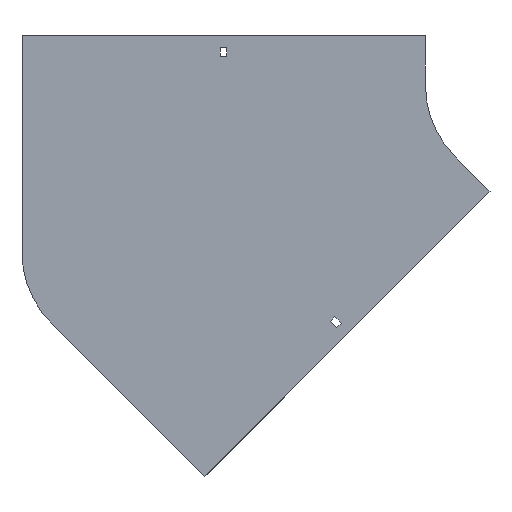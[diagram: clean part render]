
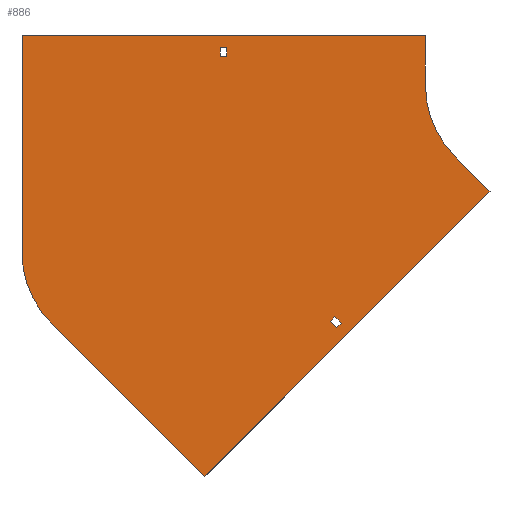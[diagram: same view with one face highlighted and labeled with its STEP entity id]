
A CAD part, front view. The second image highlights one B-rep face of the part: STEP entity #886.
In plain terms, the highlighted planar face has unit normal (0, -1, 0).
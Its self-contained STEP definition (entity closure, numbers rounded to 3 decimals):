
#19 = CARTESIAN_POINT ( 'NONE',  ( -195.338, 0., -236.35 ) ) ;
#22 = LINE ( 'NONE', #1001, #818 ) ;
#43 = ORIENTED_EDGE ( 'NONE', *, *, #96, .T. ) ;
#60 = VECTOR ( 'NONE', #853, 1000. ) ;
#61 = CARTESIAN_POINT ( 'NONE',  ( -404., 0., -167.342 ) ) ;
#66 = LINE ( 'NONE', #1029, #1354 ) ;
#67 = VERTEX_POINT ( 'NONE', #802 ) ;
#96 = EDGE_CURVE ( 'NONE', #1224, #667, #769, .T. ) ;
#101 = VERTEX_POINT ( 'NONE', #356 ) ;
#111 = VECTOR ( 'NONE', #954, 1000. ) ;
#124 = DIRECTION ( 'NONE',  ( 0., 0., -1. ) ) ;
#127 = VERTEX_POINT ( 'NONE', #222 ) ;
#135 = EDGE_LOOP ( 'NONE', ( #279, #814, #696, #543 ) ) ;
#138 = DIRECTION ( 'NONE',  ( -0.707, 0., -0.707 ) ) ;
#141 = DIRECTION ( 'NONE',  ( 0., -1., 0. ) ) ;
#163 = LINE ( 'NONE', #597, #1403 ) ;
#164 = EDGE_CURVE ( 'NONE', #1378, #511, #953, .T. ) ;
#168 = EDGE_CURVE ( 'NONE', #994, #127, #857, .T. ) ;
#173 = CARTESIAN_POINT ( 'NONE',  ( -298.75, 0., 29. ) ) ;
#181 = DIRECTION ( 'NONE',  ( 0., 0., -1. ) ) ;
#183 = CARTESIAN_POINT ( 'NONE',  ( -305.25, 0., 29. ) ) ;
#220 = VECTOR ( 'NONE', #1232, 1000. ) ;
#222 = CARTESIAN_POINT ( 'NONE',  ( -195.338, 0., -236.35 ) ) ;
#248 = CARTESIAN_POINT ( 'NONE',  ( -184.378, 0., -238.118 ) ) ;
#257 = DIRECTION ( 'NONE',  ( 0., 1., 0. ) ) ;
#259 = CARTESIAN_POINT ( 'NONE',  ( -70.711, 0., -70.711 ) ) ;
#260 = CARTESIAN_POINT ( 'NONE',  ( -305.25, 0., 29. ) ) ;
#267 = EDGE_CURVE ( 'NONE', #67, #1224, #816, .T. ) ;
#278 = CARTESIAN_POINT ( 'NONE',  ( -305.25, 0., 38. ) ) ;
#279 = ORIENTED_EDGE ( 'NONE', *, *, #1210, .F. ) ;
#281 = VECTOR ( 'NONE', #181, 1000. ) ;
#328 = ORIENTED_EDGE ( 'NONE', *, *, #267, .T. ) ;
#331 = ORIENTED_EDGE ( 'NONE', *, *, #854, .F. ) ;
#339 = FACE_BOUND ( 'NONE', #135, .T. ) ;
#344 = CIRCLE ( 'NONE', #705, 100. ) ;
#356 = CARTESIAN_POINT ( 'NONE',  ( -474.711, 0., -238.053 ) ) ;
#385 = CIRCLE ( 'NONE', #1163, 100. ) ;
#402 = DIRECTION ( 'NONE',  ( 0., 0., -1. ) ) ;
#431 = DIRECTION ( 'NONE',  ( 1., 0., 0. ) ) ;
#474 = DIRECTION ( 'NONE',  ( -0.707, 0., 0.707 ) ) ;
#475 = VERTEX_POINT ( 'NONE', #574 ) ;
#484 = LINE ( 'NONE', #491, #1309 ) ;
#487 = EDGE_CURVE ( 'NONE', #475, #101, #22, .T. ) ;
#491 = CARTESIAN_POINT ( 'NONE',  ( -190.742, 0., -231.754 ) ) ;
#504 = EDGE_CURVE ( 'NONE', #625, #992, #344, .T. ) ;
#511 = VERTEX_POINT ( 'NONE', #896 ) ;
#515 = LINE ( 'NONE', #1158, #111 ) ;
#543 = ORIENTED_EDGE ( 'NONE', *, *, #1366, .F. ) ;
#549 = EDGE_CURVE ( 'NONE', #511, #625, #163, .T. ) ;
#554 = CARTESIAN_POINT ( 'NONE',  ( -70.711, 0., -70.711 ) ) ;
#559 = CARTESIAN_POINT ( 'NONE',  ( 0., 0., 0. ) ) ;
#560 = VERTEX_POINT ( 'NONE', #278 ) ;
#574 = CARTESIAN_POINT ( 'NONE',  ( -321.026, 0., -391.737 ) ) ;
#577 = EDGE_CURVE ( 'NONE', #1301, #1378, #1255, .T. ) ;
#597 = CARTESIAN_POINT ( 'NONE',  ( -100., 0., 50. ) ) ;
#600 = VECTOR ( 'NONE', #1323, 1000. ) ;
#625 = VERTEX_POINT ( 'NONE', #908 ) ;
#642 = EDGE_CURVE ( 'NONE', #764, #475, #1033, .T. ) ;
#647 = DIRECTION ( 'NONE',  ( 0., -1., 0. ) ) ;
#667 = VERTEX_POINT ( 'NONE', #260 ) ;
#693 = CARTESIAN_POINT ( 'NONE',  ( -35.355, 0., -106.066 ) ) ;
#696 = ORIENTED_EDGE ( 'NONE', *, *, #168, .F. ) ;
#702 = AXIS2_PLACEMENT_3D ( 'NONE', #776, #647, #124 ) ;
#705 = AXIS2_PLACEMENT_3D ( 'NONE', #559, #141, #1087 ) ;
#717 = EDGE_CURVE ( 'NONE', #560, #67, #515, .T. ) ;
#737 = CARTESIAN_POINT ( 'NONE',  ( -188.974, 0., -242.714 ) ) ;
#743 = CARTESIAN_POINT ( 'NONE',  ( -298.75, 0., 29. ) ) ;
#764 = VERTEX_POINT ( 'NONE', #1151 ) ;
#769 = LINE ( 'NONE', #888, #600 ) ;
#776 = CARTESIAN_POINT ( 'NONE',  ( 0., 0., 0. ) ) ;
#798 = CARTESIAN_POINT ( 'NONE',  ( -195.338, 0., -236.35 ) ) ;
#802 = CARTESIAN_POINT ( 'NONE',  ( -298.75, 0., 38. ) ) ;
#811 = VERTEX_POINT ( 'NONE', #737 ) ;
#814 = ORIENTED_EDGE ( 'NONE', *, *, #906, .F. ) ;
#816 = LINE ( 'NONE', #173, #281 ) ;
#818 = VECTOR ( 'NONE', #474, 1000. ) ;
#841 = EDGE_LOOP ( 'NONE', ( #1348, #1228, #1189, #1399, #1293, #331, #955, #890 ) ) ;
#846 = DIRECTION ( 'NONE',  ( 0.707, 0., 0.707 ) ) ;
#853 = DIRECTION ( 'NONE',  ( 0., 0., 1. ) ) ;
#854 = EDGE_CURVE ( 'NONE', #992, #764, #966, .T. ) ;
#857 = LINE ( 'NONE', #19, #935 ) ;
#876 = FACE_OUTER_BOUND ( 'NONE', #841, .T. ) ;
#886 = ADVANCED_FACE ( 'NONE', ( #956, #876, #339 ), #1394, .T. ) ;
#888 = CARTESIAN_POINT ( 'NONE',  ( -305.25, 0., 29. ) ) ;
#890 = ORIENTED_EDGE ( 'NONE', *, *, #549, .F. ) ;
#891 = CARTESIAN_POINT ( 'NONE',  ( -190.742, 0., -231.754 ) ) ;
#896 = CARTESIAN_POINT ( 'NONE',  ( -100., 0., 50. ) ) ;
#905 = DIRECTION ( 'NONE',  ( 0., 0., 1. ) ) ;
#906 = EDGE_CURVE ( 'NONE', #127, #811, #1105, .T. ) ;
#908 = CARTESIAN_POINT ( 'NONE',  ( -100., 0., 0. ) ) ;
#912 = CARTESIAN_POINT ( 'NONE',  ( -504., 0., 50. ) ) ;
#920 = CARTESIAN_POINT ( 'NONE',  ( -504., 0., -167.342 ) ) ;
#922 = ORIENTED_EDGE ( 'NONE', *, *, #717, .T. ) ;
#935 = VECTOR ( 'NONE', #138, 1000. ) ;
#953 = LINE ( 'NONE', #1102, #1227 ) ;
#954 = DIRECTION ( 'NONE',  ( 1., 0., 0. ) ) ;
#955 = ORIENTED_EDGE ( 'NONE', *, *, #504, .F. ) ;
#956 = FACE_BOUND ( 'NONE', #1393, .T. ) ;
#966 = LINE ( 'NONE', #554, #1265 ) ;
#992 = VERTEX_POINT ( 'NONE', #259 ) ;
#994 = VERTEX_POINT ( 'NONE', #891 ) ;
#1001 = CARTESIAN_POINT ( 'NONE',  ( -321.026, 0., -391.737 ) ) ;
#1016 = DIRECTION ( 'NONE',  ( 0., 0., 1. ) ) ;
#1029 = CARTESIAN_POINT ( 'NONE',  ( -188.974, 0., -242.714 ) ) ;
#1033 = LINE ( 'NONE', #693, #220 ) ;
#1040 = LINE ( 'NONE', #183, #60 ) ;
#1087 = DIRECTION ( 'NONE',  ( 0., 0., -1. ) ) ;
#1088 = ORIENTED_EDGE ( 'NONE', *, *, #1204, .T. ) ;
#1102 = CARTESIAN_POINT ( 'NONE',  ( -504., 0., 50. ) ) ;
#1105 = LINE ( 'NONE', #798, #1193 ) ;
#1134 = DIRECTION ( 'NONE',  ( -0.707, 0., 0.707 ) ) ;
#1145 = VECTOR ( 'NONE', #1016, 1000. ) ;
#1151 = CARTESIAN_POINT ( 'NONE',  ( -35.355, 0., -106.066 ) ) ;
#1158 = CARTESIAN_POINT ( 'NONE',  ( -305.25, 0., 38. ) ) ;
#1163 = AXIS2_PLACEMENT_3D ( 'NONE', #61, #257, #905 ) ;
#1172 = CARTESIAN_POINT ( 'NONE',  ( -504., 0., -167.342 ) ) ;
#1189 = ORIENTED_EDGE ( 'NONE', *, *, #1386, .F. ) ;
#1193 = VECTOR ( 'NONE', #1231, 1000. ) ;
#1204 = EDGE_CURVE ( 'NONE', #667, #560, #1040, .T. ) ;
#1210 = EDGE_CURVE ( 'NONE', #811, #1405, #66, .T. ) ;
#1224 = VERTEX_POINT ( 'NONE', #743 ) ;
#1227 = VECTOR ( 'NONE', #431, 1000. ) ;
#1228 = ORIENTED_EDGE ( 'NONE', *, *, #577, .F. ) ;
#1231 = DIRECTION ( 'NONE',  ( 0.707, 0., -0.707 ) ) ;
#1232 = DIRECTION ( 'NONE',  ( -0.707, 0., -0.707 ) ) ;
#1255 = LINE ( 'NONE', #920, #1145 ) ;
#1265 = VECTOR ( 'NONE', #1289, 1000. ) ;
#1289 = DIRECTION ( 'NONE',  ( 0.707, 0., -0.707 ) ) ;
#1293 = ORIENTED_EDGE ( 'NONE', *, *, #642, .F. ) ;
#1301 = VERTEX_POINT ( 'NONE', #1172 ) ;
#1309 = VECTOR ( 'NONE', #1134, 1000. ) ;
#1323 = DIRECTION ( 'NONE',  ( -1., 0., 0. ) ) ;
#1348 = ORIENTED_EDGE ( 'NONE', *, *, #164, .F. ) ;
#1354 = VECTOR ( 'NONE', #846, 1000. ) ;
#1366 = EDGE_CURVE ( 'NONE', #1405, #994, #484, .T. ) ;
#1378 = VERTEX_POINT ( 'NONE', #912 ) ;
#1386 = EDGE_CURVE ( 'NONE', #101, #1301, #385, .T. ) ;
#1393 = EDGE_LOOP ( 'NONE', ( #1088, #922, #328, #43 ) ) ;
#1394 = PLANE ( 'NONE',  #702 ) ;
#1399 = ORIENTED_EDGE ( 'NONE', *, *, #487, .F. ) ;
#1403 = VECTOR ( 'NONE', #402, 1000. ) ;
#1405 = VERTEX_POINT ( 'NONE', #248 ) ;
